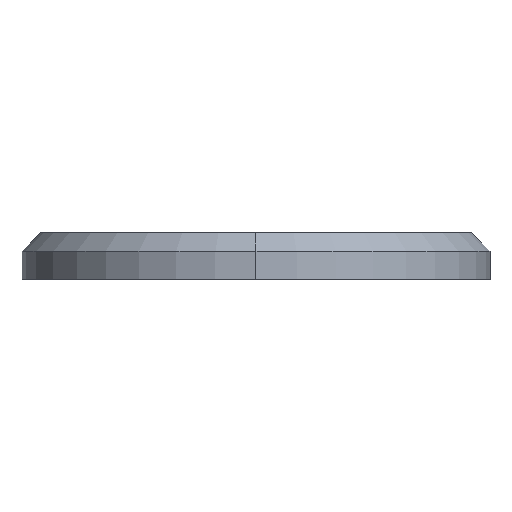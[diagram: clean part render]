
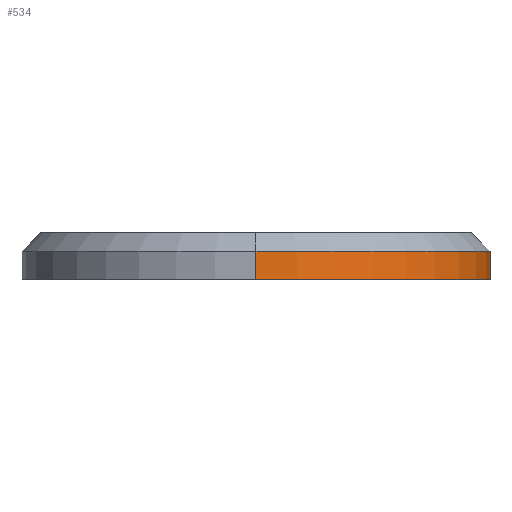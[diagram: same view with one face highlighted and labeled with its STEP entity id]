
A CAD part, left-side view. The second image highlights one B-rep face of the part: STEP entity #534.
In plain terms, the highlighted cylindrical face has radius 50 mm (diameter 100 mm), a partial arc.
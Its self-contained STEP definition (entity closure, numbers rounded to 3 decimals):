
#33 = CONICAL_SURFACE('',#34,46.,0.785);
#34 = AXIS2_PLACEMENT_3D('',#35,#36,#37);
#35 = CARTESIAN_POINT('',(0.,50.,20.));
#36 = DIRECTION('',(0.,0.,-1.));
#37 = DIRECTION('',(-1.,0.,0.));
#58 = VERTEX_POINT('',#59);
#59 = CARTESIAN_POINT('',(-50.,50.,16.));
#85 = EDGE_CURVE('',#86,#58,#88,.T.);
#86 = VERTEX_POINT('',#87);
#87 = CARTESIAN_POINT('',(0.,0.,16.));
#88 = SURFACE_CURVE('',#89,(#94,#101),.PCURVE_S1.);
#89 = CIRCLE('',#90,50.);
#90 = AXIS2_PLACEMENT_3D('',#91,#92,#93);
#91 = CARTESIAN_POINT('',(0.,50.,16.));
#92 = DIRECTION('',(0.,0.,-1.));
#93 = DIRECTION('',(1.,0.,0.));
#94 = PCURVE('',#33,#95);
#95 = DEFINITIONAL_REPRESENTATION('',(#96),#100);
#96 = LINE('',#97,#98);
#97 = CARTESIAN_POINT('',(3.142,4.));
#98 = VECTOR('',#99,1.);
#99 = DIRECTION('',(1.,0.));
#100 = ( GEOMETRIC_REPRESENTATION_CONTEXT(2) 
PARAMETRIC_REPRESENTATION_CONTEXT() REPRESENTATION_CONTEXT('2D SPACE',''
  ) );
#101 = PCURVE('',#102,#107);
#102 = CYLINDRICAL_SURFACE('',#103,50.);
#103 = AXIS2_PLACEMENT_3D('',#104,#105,#106);
#104 = CARTESIAN_POINT('',(0.,50.,20.));
#105 = DIRECTION('',(-0.,-0.,-1.));
#106 = DIRECTION('',(-1.,0.,0.));
#107 = DEFINITIONAL_REPRESENTATION('',(#108),#112);
#108 = LINE('',#109,#110);
#109 = CARTESIAN_POINT('',(3.142,4.));
#110 = VECTOR('',#111,1.);
#111 = DIRECTION('',(1.,0.));
#112 = ( GEOMETRIC_REPRESENTATION_CONTEXT(2) 
PARAMETRIC_REPRESENTATION_CONTEXT() REPRESENTATION_CONTEXT('2D SPACE',''
  ) );
#523 = CYLINDRICAL_SURFACE('',#524,50.);
#524 = AXIS2_PLACEMENT_3D('',#525,#526,#527);
#525 = CARTESIAN_POINT('',(0.,50.,20.));
#526 = DIRECTION('',(-0.,-0.,-1.));
#527 = DIRECTION('',(-1.,0.,0.));
#534 = ADVANCED_FACE('',(#535),#102,.T.);
#535 = FACE_BOUND('',#536,.T.);
#536 = EDGE_LOOP('',(#537,#565,#566,#589));
#537 = ORIENTED_EDGE('',*,*,#538,.F.);
#538 = EDGE_CURVE('',#86,#539,#541,.T.);
#539 = VERTEX_POINT('',#540);
#540 = CARTESIAN_POINT('',(0.,0.,10.));
#541 = SURFACE_CURVE('',#542,(#546,#553),.PCURVE_S1.);
#542 = LINE('',#543,#544);
#543 = CARTESIAN_POINT('',(0.,0.,20.));
#544 = VECTOR('',#545,1.);
#545 = DIRECTION('',(-0.,-0.,-1.));
#546 = PCURVE('',#102,#547);
#547 = DEFINITIONAL_REPRESENTATION('',(#548),#552);
#548 = LINE('',#549,#550);
#549 = CARTESIAN_POINT('',(4.712,0.));
#550 = VECTOR('',#551,1.);
#551 = DIRECTION('',(0.,1.));
#552 = ( GEOMETRIC_REPRESENTATION_CONTEXT(2) 
PARAMETRIC_REPRESENTATION_CONTEXT() REPRESENTATION_CONTEXT('2D SPACE',''
  ) );
#553 = PCURVE('',#554,#559);
#554 = PLANE('',#555);
#555 = AXIS2_PLACEMENT_3D('',#556,#557,#558);
#556 = CARTESIAN_POINT('',(0.,0.,20.));
#557 = DIRECTION('',(0.,1.,0.));
#558 = DIRECTION('',(0.,0.,1.));
#559 = DEFINITIONAL_REPRESENTATION('',(#560),#564);
#560 = LINE('',#561,#562);
#561 = CARTESIAN_POINT('',(0.,0.));
#562 = VECTOR('',#563,1.);
#563 = DIRECTION('',(-1.,0.));
#564 = ( GEOMETRIC_REPRESENTATION_CONTEXT(2) 
PARAMETRIC_REPRESENTATION_CONTEXT() REPRESENTATION_CONTEXT('2D SPACE',''
  ) );
#565 = ORIENTED_EDGE('',*,*,#85,.T.);
#566 = ORIENTED_EDGE('',*,*,#567,.T.);
#567 = EDGE_CURVE('',#58,#568,#570,.T.);
#568 = VERTEX_POINT('',#569);
#569 = CARTESIAN_POINT('',(-50.,50.,10.));
#570 = SURFACE_CURVE('',#571,(#575,#582),.PCURVE_S1.);
#571 = LINE('',#572,#573);
#572 = CARTESIAN_POINT('',(-50.,50.,20.));
#573 = VECTOR('',#574,1.);
#574 = DIRECTION('',(-0.,-0.,-1.));
#575 = PCURVE('',#102,#576);
#576 = DEFINITIONAL_REPRESENTATION('',(#577),#581);
#577 = LINE('',#578,#579);
#578 = CARTESIAN_POINT('',(6.283,0.));
#579 = VECTOR('',#580,1.);
#580 = DIRECTION('',(0.,1.));
#581 = ( GEOMETRIC_REPRESENTATION_CONTEXT(2) 
PARAMETRIC_REPRESENTATION_CONTEXT() REPRESENTATION_CONTEXT('2D SPACE',''
  ) );
#582 = PCURVE('',#523,#583);
#583 = DEFINITIONAL_REPRESENTATION('',(#584),#588);
#584 = LINE('',#585,#586);
#585 = CARTESIAN_POINT('',(0.,0.));
#586 = VECTOR('',#587,1.);
#587 = DIRECTION('',(0.,1.));
#588 = ( GEOMETRIC_REPRESENTATION_CONTEXT(2) 
PARAMETRIC_REPRESENTATION_CONTEXT() REPRESENTATION_CONTEXT('2D SPACE',''
  ) );
#589 = ORIENTED_EDGE('',*,*,#590,.F.);
#590 = EDGE_CURVE('',#539,#568,#591,.T.);
#591 = SURFACE_CURVE('',#592,(#597,#604),.PCURVE_S1.);
#592 = CIRCLE('',#593,50.);
#593 = AXIS2_PLACEMENT_3D('',#594,#595,#596);
#594 = CARTESIAN_POINT('',(0.,50.,10.));
#595 = DIRECTION('',(0.,0.,-1.));
#596 = DIRECTION('',(-1.,0.,0.));
#597 = PCURVE('',#102,#598);
#598 = DEFINITIONAL_REPRESENTATION('',(#599),#603);
#599 = LINE('',#600,#601);
#600 = CARTESIAN_POINT('',(0.,10.));
#601 = VECTOR('',#602,1.);
#602 = DIRECTION('',(1.,0.));
#603 = ( GEOMETRIC_REPRESENTATION_CONTEXT(2) 
PARAMETRIC_REPRESENTATION_CONTEXT() REPRESENTATION_CONTEXT('2D SPACE',''
  ) );
#604 = PCURVE('',#605,#610);
#605 = PLANE('',#606);
#606 = AXIS2_PLACEMENT_3D('',#607,#608,#609);
#607 = CARTESIAN_POINT('',(-85.,-40.,10.));
#608 = DIRECTION('',(0.,0.,1.));
#609 = DIRECTION('',(1.,0.,0.));
#610 = DEFINITIONAL_REPRESENTATION('',(#611),#619);
#611 = ( BOUNDED_CURVE() B_SPLINE_CURVE(2,(#612,#613,#614,#615,#616,#617
,#618),.UNSPECIFIED.,.T.,.F.) B_SPLINE_CURVE_WITH_KNOTS((1,2,2,2,2,1),(
    -2.094,0.,2.094,4.189,6.283,
8.378),.UNSPECIFIED.) CURVE() GEOMETRIC_REPRESENTATION_ITEM() 
RATIONAL_B_SPLINE_CURVE((1.,0.5,1.,0.5,1.,0.5,1.)) REPRESENTATION_ITEM(
  '') );
#612 = CARTESIAN_POINT('',(35.,90.));
#613 = CARTESIAN_POINT('',(35.,176.603));
#614 = CARTESIAN_POINT('',(110.,133.301));
#615 = CARTESIAN_POINT('',(185.,90.));
#616 = CARTESIAN_POINT('',(110.,46.699));
#617 = CARTESIAN_POINT('',(35.,3.397));
#618 = CARTESIAN_POINT('',(35.,90.));
#619 = ( GEOMETRIC_REPRESENTATION_CONTEXT(2) 
PARAMETRIC_REPRESENTATION_CONTEXT() REPRESENTATION_CONTEXT('2D SPACE',''
  ) );
